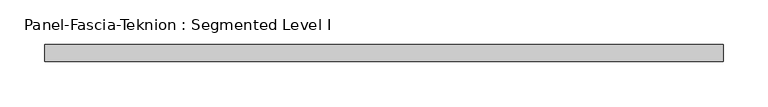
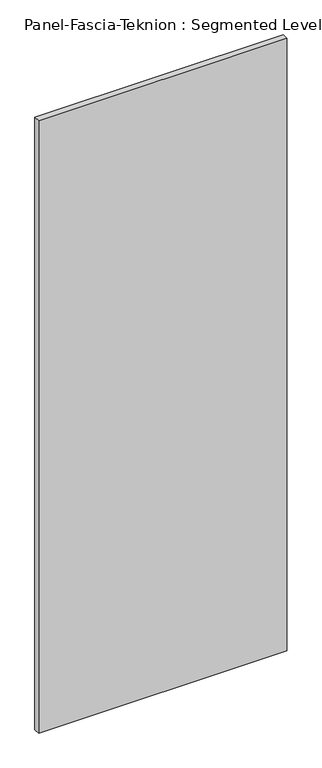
"""IFC4 building model written with IfcOpenShell, lengths in millimetres: proxy geometry, Panel-Fascia-Teknion : Segmented Level I."""

from ifc_helpers import new_model, si_unit, frame, origin, place, context, project, spatial, polyline, outline, extrude, source, transform, mapped, element, save


def panel_fascia_teknion_segmented_level_i_5ebf3f09(model_context):
    return source(origin(), model_context, "Body", "SweptSolid", [
        extrude(outline(polyline([(378.4203125, -9.525), (-378.4203125, -9.525), (-378.4203125, 9.525), (378.4203125, 9.525), (378.4203125, -9.525)])), frame((0.0, 0.0, 3.175), z_axis=(0.0, 0.0, 1.0), x_axis=(1.0, 0.0, 0.0)), (0.0, 0.0, 1.0), 1974.85),
    ])


if __name__ == "__main__":
    model = new_model("IFC4")
    model_context = context("Model", 3, world=origin())
    ifc_project = project(units=[si_unit("LENGTHUNIT", "METRE", prefix="MILLI")], contexts=[model_context])
    site = spatial("IfcSite", under=ifc_project)
    building = spatial("IfcBuilding", under=site)
    placement = place(None, origin())
    panel_fascia_teknion_segmented_level_i_shape = panel_fascia_teknion_segmented_level_i_5ebf3f09(model_context)
    element("IfcBuildingElementProxy", 1, Name="Panel-Fascia-Teknion : Segmented Level I", ObjectType="Panel-Fascia-Teknion : Segmented Level I", at=placement, inside=building, context=model_context, shape_type="MappedRepresentation", body=[
        mapped(panel_fascia_teknion_segmented_level_i_shape, transform((0.0, 0.0, 0.0), x_axis=(1.0, 0.0, 0.0), y_axis=(0.0, 1.0, 0.0), z_axis=(0.0, 0.0, 1.0))),
    ])
    save(model, "model.ifc")
